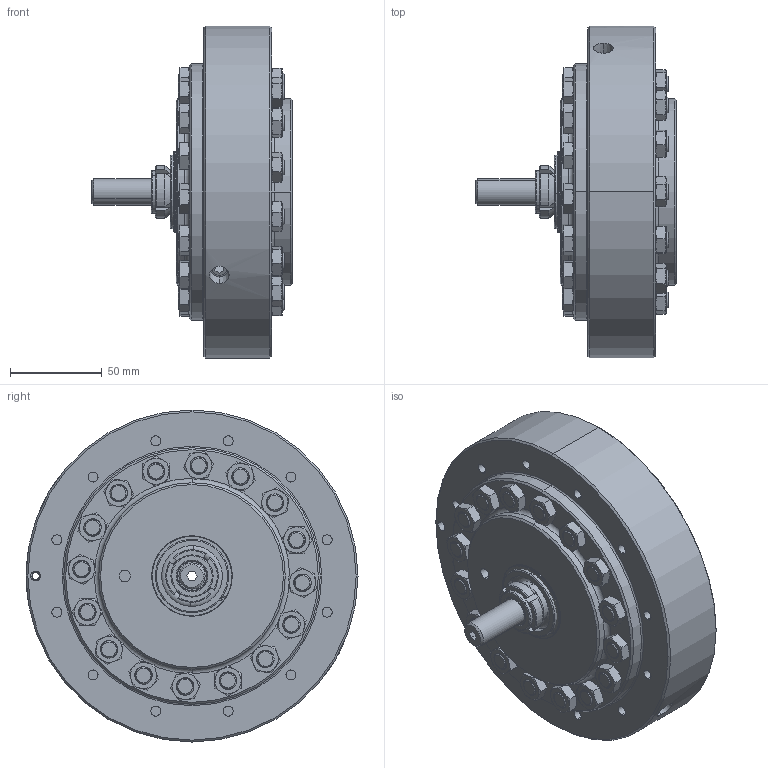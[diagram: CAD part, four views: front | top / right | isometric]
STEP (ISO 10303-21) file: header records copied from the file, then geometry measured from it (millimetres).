
FILE_DESCRIPTION (( 'STEP AP214' ), '1' );
FILE_NAME ('DN04RRRFTLS0000.STEP', '2019-10-30T17:04:13', ( '' ), ( '' ), 'SwSTEP 2.0', 'SolidWorks 2019', '' );
FILE_SCHEMA (( 'AUTOMOTIVE_DESIGN' ));
Length unit declared in the file: millimetre
Products named in the file (1): DN04RRRFTLS0000
Bounding box: 109.14 x 180.85 x 180.85 mm (x, y, z)
Surface area: 118737.5 mm2 (no closed solid volume)
Topology: 0 solids, 89 shells, 898 faces, 2333 edges, 1517 vertices
Faces by surface type: cone 370, plane 310, cylinder 182, bspline 26, torus 10
Entity records: 43660 total; most frequent: CARTESIAN_POINT 13259, DIRECTION 4134, ORIENTED_EDGE 3924, EDGE_CURVE 2333, AXIS2_PLACEMENT_3D 1756, VERTEX_POINT 1517, EDGE_LOOP 1016, UNCERTAINTY_MEASURE_WITH_UNIT 900
